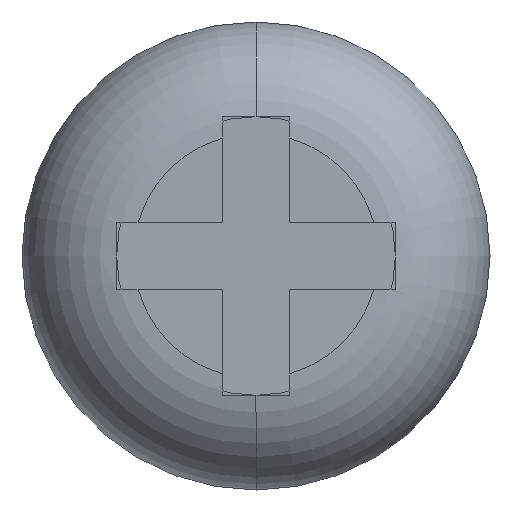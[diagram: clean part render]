
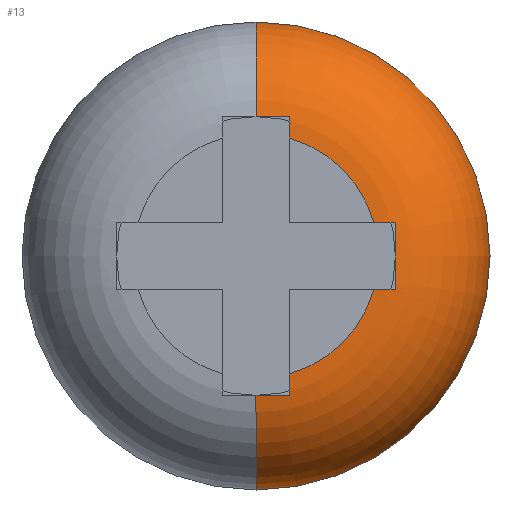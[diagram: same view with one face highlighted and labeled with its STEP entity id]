
A CAD part, front view. The second image highlights one B-rep face of the part: STEP entity #13.
In plain terms, the highlighted toroidal (fillet/blend) face has major radius 1.1 mm and minor radius 1 mm.
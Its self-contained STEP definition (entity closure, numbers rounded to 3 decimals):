
#7 = CARTESIAN_POINT ( 'NONE',  ( 0., 1., 0. ) ) ;
#11 = CARTESIAN_POINT ( 'NONE',  ( 1.25, 0.017, -0.3 ) ) ;
#12 = CARTESIAN_POINT ( 'NONE',  ( 0., 1., -2.1 ) ) ;
#13 = ADVANCED_FACE ( 'NONE', ( #150 ), #214, .T. ) ;
#16 = CARTESIAN_POINT ( 'NONE',  ( 1.187, 0.006, -0.3 ) ) ;
#25 = DIRECTION ( 'NONE',  ( 0., 0., -1. ) ) ;
#27 = B_SPLINE_CURVE_WITH_KNOTS ( 'NONE', 3,
 ( #690, #110, #775, #36 ),
 .UNSPECIFIED., .F., .F.,
 ( 4, 4 ),
 ( 0., 0. ),
 .UNSPECIFIED. ) ;
#36 = CARTESIAN_POINT ( 'NONE',  ( 0.3, 0.017, 1.25 ) ) ;
#43 = CARTESIAN_POINT ( 'NONE',  ( 0., 1., 2.1 ) ) ;
#44 = VERTEX_POINT ( 'NONE', #524 ) ;
#53 = B_SPLINE_CURVE_WITH_KNOTS ( 'NONE', 3,
 ( #464, #105, #231, #90 ),
 .UNSPECIFIED., .F., .F.,
 ( 4, 4 ),
 ( 0., 0.001 ),
 .UNSPECIFIED. ) ;
#56 = ORIENTED_EDGE ( 'NONE', *, *, #635, .F. ) ;
#61 = CARTESIAN_POINT ( 'NONE',  ( 0.3, 0.017, 1.25 ) ) ;
#64 = ORIENTED_EDGE ( 'NONE', *, *, #791, .F. ) ;
#76 = CARTESIAN_POINT ( 'NONE',  ( 1.187, 0.006, 0.3 ) ) ;
#80 = VERTEX_POINT ( 'NONE', #789 ) ;
#90 = CARTESIAN_POINT ( 'NONE',  ( 0.3, 0.017, -1.25 ) ) ;
#94 = CARTESIAN_POINT ( 'NONE',  ( 1.123, 0., -0.3 ) ) ;
#97 = ORIENTED_EDGE ( 'NONE', *, *, #119, .F. ) ;
#105 = CARTESIAN_POINT ( 'NONE',  ( 0.1, 0.011, -1.25 ) ) ;
#109 = B_SPLINE_CURVE_WITH_KNOTS ( 'NONE', 3,
 ( #11, #314, #808, #380 ),
 .UNSPECIFIED., .F., .F.,
 ( 4, 4 ),
 ( 0., 0.001 ),
 .UNSPECIFIED. ) ;
#110 = CARTESIAN_POINT ( 'NONE',  ( 0.3, 0., 1.123 ) ) ;
#118 = VERTEX_POINT ( 'NONE', #284 ) ;
#119 = EDGE_CURVE ( 'NONE', #365, #232, #659, .T. ) ;
#136 = ORIENTED_EDGE ( 'NONE', *, *, #245, .F. ) ;
#145 = AXIS2_PLACEMENT_3D ( 'NONE', #444, #566, #211 ) ;
#150 = FACE_OUTER_BOUND ( 'NONE', #802, .T. ) ;
#160 = CARTESIAN_POINT ( 'NONE',  ( 0., 1., -1.1 ) ) ;
#175 = CARTESIAN_POINT ( 'NONE',  ( 0.3, 0.017, 1.25 ) ) ;
#185 = CIRCLE ( 'NONE', #927, 1. ) ;
#191 = VERTEX_POINT ( 'NONE', #377 ) ;
#201 = CARTESIAN_POINT ( 'NONE',  ( 0.3, 0., 1.058 ) ) ;
#208 = EDGE_CURVE ( 'NONE', #44, #232, #432, .T. ) ;
#211 = DIRECTION ( 'NONE',  ( 0., 0., 1. ) ) ;
#214 = TOROIDAL_SURFACE ( 'NONE', #533, 1.1, 1. ) ;
#231 = CARTESIAN_POINT ( 'NONE',  ( 0.2, 0.013, -1.25 ) ) ;
#232 = VERTEX_POINT ( 'NONE', #12 ) ;
#243 = VERTEX_POINT ( 'NONE', #670 ) ;
#245 = EDGE_CURVE ( 'NONE', #44, #80, #53, .T. ) ;
#261 = AXIS2_PLACEMENT_3D ( 'NONE', #160, #741, #25 ) ;
#282 = DIRECTION ( 'NONE',  ( 0., -1., 0. ) ) ;
#284 = CARTESIAN_POINT ( 'NONE',  ( 1.058, 0., 0.3 ) ) ;
#314 = CARTESIAN_POINT ( 'NONE',  ( 1.25, 0.009, -0.1 ) ) ;
#316 = ORIENTED_EDGE ( 'NONE', *, *, #639, .F. ) ;
#322 = B_SPLINE_CURVE_WITH_KNOTS ( 'NONE', 3,
 ( #725, #76, #803, #729 ),
 .UNSPECIFIED., .F., .F.,
 ( 4, 4 ),
 ( 0., 0. ),
 .UNSPECIFIED. ) ;
#333 = ORIENTED_EDGE ( 'NONE', *, *, #208, .T. ) ;
#338 = CARTESIAN_POINT ( 'NONE',  ( 0., 1., 1.1 ) ) ;
#349 = EDGE_CURVE ( 'NONE', #529, #501, #27, .T. ) ;
#365 = VERTEX_POINT ( 'NONE', #43 ) ;
#371 = CIRCLE ( 'NONE', #723, 1.1 ) ;
#377 = CARTESIAN_POINT ( 'NONE',  ( 1.25, 0.017, -0.3 ) ) ;
#378 = CARTESIAN_POINT ( 'NONE',  ( 0.1, 0.011, 1.25 ) ) ;
#380 = CARTESIAN_POINT ( 'NONE',  ( 1.25, 0.017, 0.3 ) ) ;
#384 = CARTESIAN_POINT ( 'NONE',  ( 0.2, 0.013, 1.25 ) ) ;
#393 = B_SPLINE_CURVE_WITH_KNOTS ( 'NONE', 3,
 ( #745, #94, #16, #600 ),
 .UNSPECIFIED., .F., .F.,
 ( 4, 4 ),
 ( 0., 0. ),
 .UNSPECIFIED. ) ;
#394 = CARTESIAN_POINT ( 'NONE',  ( 0.3, 0., -1.058 ) ) ;
#401 = ORIENTED_EDGE ( 'NONE', *, *, #695, .F. ) ;
#405 = AXIS2_PLACEMENT_3D ( 'NONE', #825, #587, #812 ) ;
#422 = CARTESIAN_POINT ( 'NONE',  ( 0., 0.011, 1.25 ) ) ;
#432 = CIRCLE ( 'NONE', #261, 1. ) ;
#444 = CARTESIAN_POINT ( 'NONE',  ( 0., 1., 0. ) ) ;
#449 = CIRCLE ( 'NONE', #405, 1.1 ) ;
#450 = CARTESIAN_POINT ( 'NONE',  ( 0.3, 0.006, -1.187 ) ) ;
#456 = ORIENTED_EDGE ( 'NONE', *, *, #652, .F. ) ;
#464 = CARTESIAN_POINT ( 'NONE',  ( 0., 0.011, -1.25 ) ) ;
#473 = VERTEX_POINT ( 'NONE', #422 ) ;
#489 = DIRECTION ( 'NONE',  ( 0., 0., 1. ) ) ;
#501 = VERTEX_POINT ( 'NONE', #61 ) ;
#524 = CARTESIAN_POINT ( 'NONE',  ( 0., 0.011, -1.25 ) ) ;
#529 = VERTEX_POINT ( 'NONE', #201 ) ;
#533 = AXIS2_PLACEMENT_3D ( 'NONE', #7, #653, #885 ) ;
#540 = VERTEX_POINT ( 'NONE', #570 ) ;
#544 = ORIENTED_EDGE ( 'NONE', *, *, #610, .F. ) ;
#566 = DIRECTION ( 'NONE',  ( 0., 1., 0. ) ) ;
#570 = CARTESIAN_POINT ( 'NONE',  ( 1.25, 0.017, 0.3 ) ) ;
#587 = DIRECTION ( 'NONE',  ( 0., -1., 0. ) ) ;
#589 = EDGE_CURVE ( 'NONE', #243, #833, #371, .T. ) ;
#600 = CARTESIAN_POINT ( 'NONE',  ( 1.25, 0.017, -0.3 ) ) ;
#609 = ORIENTED_EDGE ( 'NONE', *, *, #349, .F. ) ;
#610 = EDGE_CURVE ( 'NONE', #540, #118, #322, .T. ) ;
#620 = DIRECTION ( 'NONE',  ( -1., 0., 0. ) ) ;
#635 = EDGE_CURVE ( 'NONE', #118, #529, #449, .T. ) ;
#639 = EDGE_CURVE ( 'NONE', #80, #243, #851, .T. ) ;
#652 = EDGE_CURVE ( 'NONE', #191, #540, #109, .T. ) ;
#653 = DIRECTION ( 'NONE',  ( 0., 1., 0. ) ) ;
#659 = CIRCLE ( 'NONE', #145, 2.1 ) ;
#670 = CARTESIAN_POINT ( 'NONE',  ( 0.3, 0., -1.058 ) ) ;
#690 = CARTESIAN_POINT ( 'NONE',  ( 0.3, 0., 1.058 ) ) ;
#695 = EDGE_CURVE ( 'NONE', #833, #191, #393, .T. ) ;
#723 = AXIS2_PLACEMENT_3D ( 'NONE', #946, #282, #882 ) ;
#725 = CARTESIAN_POINT ( 'NONE',  ( 1.25, 0.017, 0.3 ) ) ;
#729 = CARTESIAN_POINT ( 'NONE',  ( 1.058, 0., 0.3 ) ) ;
#737 = CARTESIAN_POINT ( 'NONE',  ( 0., 0.011, 1.25 ) ) ;
#740 = CARTESIAN_POINT ( 'NONE',  ( 0.3, 0., -1.123 ) ) ;
#741 = DIRECTION ( 'NONE',  ( 1., 0., 0. ) ) ;
#745 = CARTESIAN_POINT ( 'NONE',  ( 1.058, 0., -0.3 ) ) ;
#748 = CARTESIAN_POINT ( 'NONE',  ( 0.3, 0.017, -1.25 ) ) ;
#768 = ORIENTED_EDGE ( 'NONE', *, *, #867, .F. ) ;
#775 = CARTESIAN_POINT ( 'NONE',  ( 0.3, 0.006, 1.187 ) ) ;
#789 = CARTESIAN_POINT ( 'NONE',  ( 0.3, 0.017, -1.25 ) ) ;
#791 = EDGE_CURVE ( 'NONE', #501, #473, #837, .T. ) ;
#802 = EDGE_LOOP ( 'NONE', ( #136, #333, #97, #768, #64, #609, #56, #544, #456, #401, #892, #316 ) ) ;
#803 = CARTESIAN_POINT ( 'NONE',  ( 1.123, 0., 0.3 ) ) ;
#808 = CARTESIAN_POINT ( 'NONE',  ( 1.25, 0.009, 0.1 ) ) ;
#812 = DIRECTION ( 'NONE',  ( 0., 0., 1. ) ) ;
#825 = CARTESIAN_POINT ( 'NONE',  ( 0., 0., 0. ) ) ;
#830 = CARTESIAN_POINT ( 'NONE',  ( 1.058, 0., -0.3 ) ) ;
#833 = VERTEX_POINT ( 'NONE', #830 ) ;
#837 = B_SPLINE_CURVE_WITH_KNOTS ( 'NONE', 3,
 ( #175, #384, #378, #737 ),
 .UNSPECIFIED., .F., .F.,
 ( 4, 4 ),
 ( 0., 0. ),
 .UNSPECIFIED. ) ;
#851 = B_SPLINE_CURVE_WITH_KNOTS ( 'NONE', 3,
 ( #748, #450, #740, #394 ),
 .UNSPECIFIED., .F., .F.,
 ( 4, 4 ),
 ( 0., 0. ),
 .UNSPECIFIED. ) ;
#867 = EDGE_CURVE ( 'NONE', #473, #365, #185, .T. ) ;
#882 = DIRECTION ( 'NONE',  ( 0., 0., 1. ) ) ;
#885 = DIRECTION ( 'NONE',  ( 0., 0., 1. ) ) ;
#892 = ORIENTED_EDGE ( 'NONE', *, *, #589, .F. ) ;
#927 = AXIS2_PLACEMENT_3D ( 'NONE', #338, #620, #489 ) ;
#946 = CARTESIAN_POINT ( 'NONE',  ( 0., 0., 0. ) ) ;
